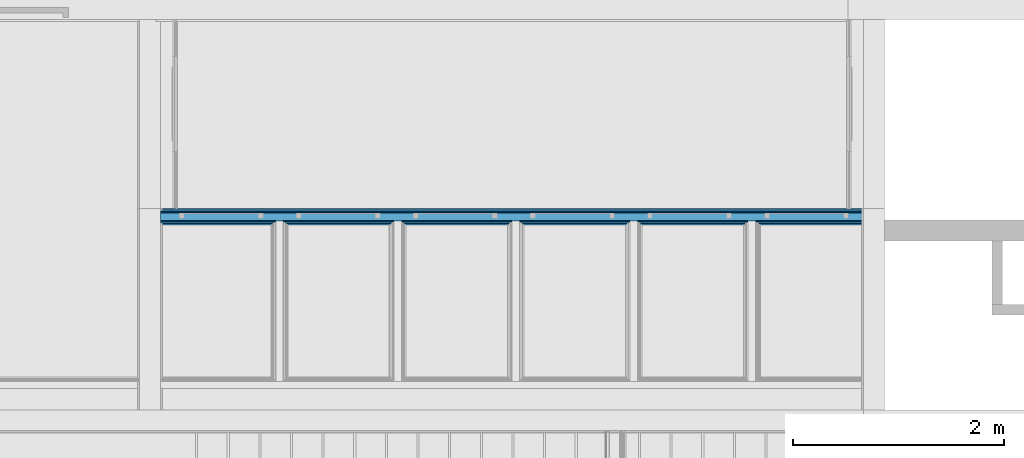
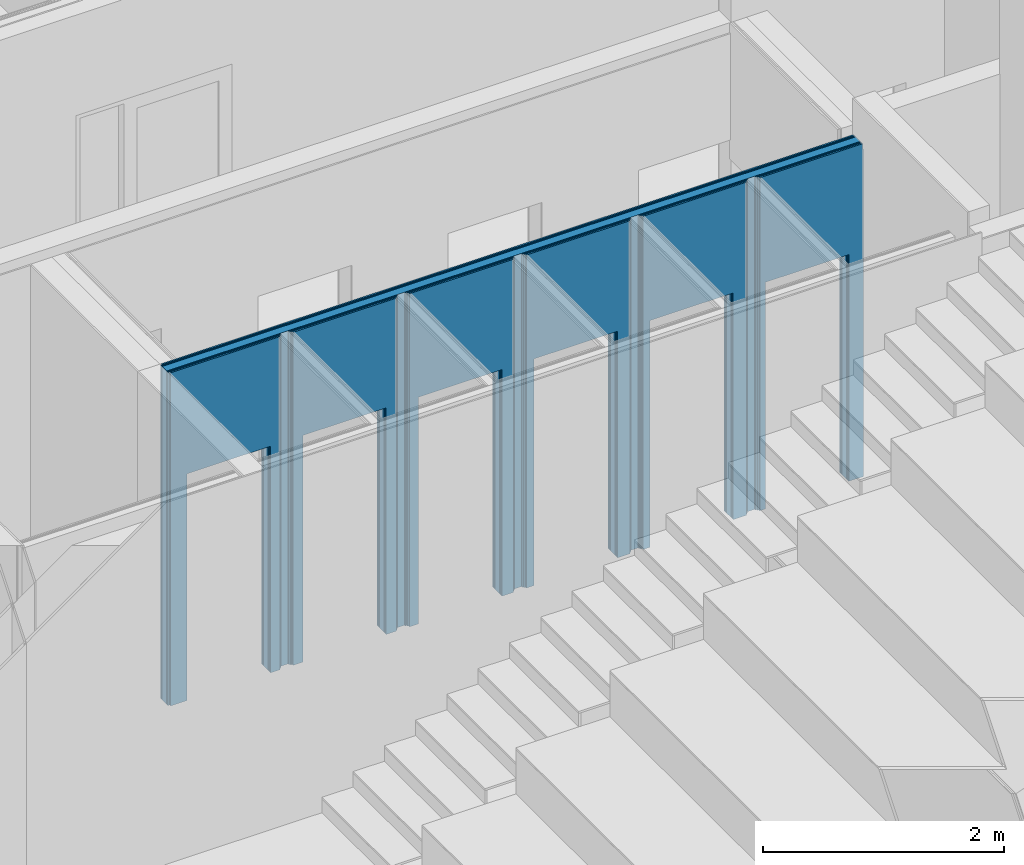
# One storey, part 60 of 139: 7 building element parts, 6 openings, 1 element without a shape of its own.
"""IFC2X3 building model written with IfcOpenShell, lengths in millimetres."""

from ifc_helpers import new_model, entity, si_unit, converted_unit, derived_unit, money_unit, direction, frame, origin_with_axes, place, context, subcontext, project, spatial, faceted_brep, material, type_object, element, aggregate, save


model = new_model("IFC2X3")

# Units and contexts
model_context = context("Model", 3, precision=0.01, world=origin_with_axes(), true_north=direction((0.0, 1.0)))
body_context = subcontext(model_context, "Body", "Model", "MODEL_VIEW")
ifc_project = project(units=[si_unit("LENGTHUNIT", "METRE", prefix="MILLI"), si_unit("AREAUNIT", "SQUARE_METRE"), si_unit("VOLUMEUNIT", "CUBIC_METRE"), converted_unit("PLANEANGLEUNIT", "DEGREE", entity("IfcPlaneAngleMeasure", 0.0174532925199), si_unit("PLANEANGLEUNIT", "RADIAN"), dimensions=[0, 0, 0, 0, 0, 0, 0]), money_unit("EUR"), converted_unit("TIMEUNIT", "Year", entity("IfcTimeMeasure", 31556926.0), si_unit("TIMEUNIT", "SECOND"), dimensions=[0, 0, 1, 0, 0, 0, 0]), si_unit("MASSUNIT", "GRAM", prefix="KILO"), si_unit("THERMODYNAMICTEMPERATUREUNIT", "DEGREE_CELSIUS"), si_unit("LUMINOUSINTENSITYUNIT", "LUMEN"), si_unit("ENERGYUNIT", "JOULE", prefix="MEGA"), derived_unit("THERMALCONDUCTANCEUNIT", [(si_unit("POWERUNIT", "WATT"), 1), (si_unit("LENGTHUNIT", "METRE"), -1), (si_unit("THERMODYNAMICTEMPERATUREUNIT", "KELVIN"), -1)]), derived_unit("SPECIFICHEATCAPACITYUNIT", [(si_unit("ENERGYUNIT", "JOULE"), 1), (si_unit("MASSUNIT", "GRAM", prefix="KILO"), -1), (si_unit("THERMODYNAMICTEMPERATUREUNIT", "KELVIN"), -1)]), derived_unit("MASSDENSITYUNIT", [(si_unit("MASSUNIT", "GRAM", prefix="KILO"), 1), (si_unit("VOLUMEUNIT", "CUBIC_METRE"), -1)])], contexts=[model_context])

# Site, building, storey
site_placement = place(None, origin_with_axes())
site = spatial("IfcSite", under=ifc_project, at=site_placement, Name="Kolde pst 67a", CompositionType="ELEMENT")
building_placement = place(site_placement, origin_with_axes())
building = spatial("IfcBuilding", under=site, at=building_placement, Name="Riigigümnaasium", CompositionType="ELEMENT")
storey_placement = place(building_placement, frame((0.0, 0.0, 4600.0), z_axis=(0.0, 0.0, 1.0), x_axis=(1.0, 0.0, 0.0)))
storey = spatial("IfcBuildingStorey", under=building, at=storey_placement, Name="2. korrus", CompositionType="ELEMENT", Elevation=4600.0)

# Wall, openings, building element parts
wall_type = type_object("IfcWallType", Name="SS-MK-7,5/1_plaaditud 155", PredefinedType="NOTDEFINED")
wall_placement = place(storey_placement, frame((39109.8305113, 47623.4999608, 0.0), z_axis=(0.0, 0.0, 1.0), x_axis=(1.0, 0.0, 0.0)))
wall = element("IfcWall", 1, at=wall_placement, inside=storey, type_object=wall_type, Name="Sisesein")
opening_1_placement = place(wall_placement, frame((6125.15494935, 0.0, 0.0), z_axis=(0.0, 0.0, 1.0), x_axis=(1.0, 0.0, 0.0)))
element("IfcOpeningElement", 2, at=opening_1_placement, cuts=wall, Name="Siseuks", context=body_context, shape_type="Brep", body=[
    faceted_brep([(400.0, -155.0, 2300.0), (400.0, -155.0, 0.0), (400.0, 310.0, 0.0), (400.0, 310.0, 2300.0), (-400.0, -155.0, 2300.0), (-400.0, -155.0, 0.0), (-400.0, 310.0, 0.0), (-400.0, 310.0, 2300.0)], [[[0, 1, 2, 3]], [[0, 4, 5, 1]], [[1, 5, 6, 2]], [[3, 2, 6, 7]], [[4, 0, 3, 7]], [[5, 4, 7, 6]]]),
])
opening_2_placement = place(wall_placement, frame((5015.15494935, 0.0, 0.0), z_axis=(0.0, 0.0, 1.0), x_axis=(1.0, 0.0, 0.0)))
element("IfcOpeningElement", 3, at=opening_2_placement, cuts=wall, Name="Siseuks", context=body_context, shape_type="Brep", body=[
    faceted_brep([(400.0, -155.0, 2300.0), (400.0, -155.0, 0.0), (400.0, 310.0, 0.0), (400.0, 310.0, 2300.0), (-400.0, -155.0, 2300.0), (-400.0, -155.0, 0.0), (-400.0, 310.0, 0.0), (-400.0, 310.0, 2300.0)], [[[0, 1, 2, 3]], [[0, 4, 5, 1]], [[1, 5, 6, 2]], [[3, 2, 6, 7]], [[4, 0, 3, 7]], [[5, 4, 7, 6]]]),
])
opening_3_placement = place(wall_placement, frame((3905.15494935, 0.0, 0.0), z_axis=(0.0, 0.0, 1.0), x_axis=(1.0, 0.0, 0.0)))
element("IfcOpeningElement", 4, at=opening_3_placement, cuts=wall, Name="Siseuks", context=body_context, shape_type="Brep", body=[
    faceted_brep([(400.0, -155.0, 2300.0), (400.0, -155.0, 0.0), (400.0, 310.0, 0.0), (400.0, 310.0, 2300.0), (-400.0, -155.0, 2300.0), (-400.0, -155.0, 0.0), (-400.0, 310.0, 0.0), (-400.0, 310.0, 2300.0)], [[[0, 1, 2, 3]], [[0, 4, 5, 1]], [[1, 5, 6, 2]], [[3, 2, 6, 7]], [[4, 0, 3, 7]], [[5, 4, 7, 6]]]),
])
opening_4_placement = place(wall_placement, frame((2795.15494935, 0.0, 0.0), z_axis=(0.0, 0.0, 1.0), x_axis=(1.0, 0.0, 0.0)))
element("IfcOpeningElement", 5, at=opening_4_placement, cuts=wall, Name="Siseuks", context=body_context, shape_type="Brep", body=[
    faceted_brep([(-400.0, 310.0, 2300.0), (-400.0, 310.0, 0.0), (-400.0, -155.0, 0.0), (-400.0, -155.0, 2300.0), (400.0, 310.0, 2300.0), (400.0, 310.0, 0.0), (400.0, -155.0, 0.0), (400.0, -155.0, 2300.0)], [[[0, 1, 2, 3]], [[0, 4, 5, 1]], [[1, 5, 6, 2]], [[3, 2, 6, 7]], [[4, 0, 3, 7]], [[5, 4, 7, 6]]]),
])
opening_5_placement = place(wall_placement, frame((1685.15494935, 0.0, 0.0), z_axis=(0.0, 0.0, 1.0), x_axis=(1.0, 0.0, 0.0)))
element("IfcOpeningElement", 6, at=opening_5_placement, cuts=wall, Name="Siseuks", context=body_context, shape_type="Brep", body=[
    faceted_brep([(-400.0, 310.0, 2300.0), (-400.0, 310.0, 0.0), (-400.0, -155.0, 0.0), (-400.0, -155.0, 2300.0), (400.0, 310.0, 2300.0), (400.0, 310.0, 0.0), (400.0, -155.0, 0.0), (400.0, -155.0, 2300.0)], [[[0, 1, 2, 3]], [[0, 4, 5, 1]], [[1, 5, 6, 2]], [[3, 2, 6, 7]], [[4, 0, 3, 7]], [[5, 4, 7, 6]]]),
])
opening_6_placement = place(wall_placement, frame((575.0, 0.0, 0.0), z_axis=(0.0, 0.0, 1.0), x_axis=(1.0, 0.0, 0.0)))
element("IfcOpeningElement", 7, at=opening_6_placement, cuts=wall, Name="Siseuks", context=body_context, shape_type="Brep", body=[
    faceted_brep([(-400.0, 310.0, 2300.0), (-400.0, 310.0, 0.0), (-400.0, -155.0, 0.0), (-400.0, -155.0, 2300.0), (400.0, 310.0, 2300.0), (400.0, 310.0, 0.0), (400.0, -155.0, 0.0), (400.0, -155.0, 2300.0)], [[[0, 1, 2, 3]], [[0, 4, 5, 1]], [[1, 5, 6, 2]], [[3, 2, 6, 7]], [[4, 0, 3, 7]], [[5, 4, 7, 6]]]),
])
ifc_material_1 = material(Name="_VIIMISTLUSKIHT - viimistlus vastavalt SA osale")
building_element_part_1_placement = place(wall_placement, origin_with_axes())
building_element_part_1 = element("IfcBuildingElementPart", 8, at=building_element_part_1_placement, material=ifc_material_1, Name="_VIIMISTLUSKIHT - viimistlus vastavalt SA osale", context=body_context, shape_type="Brep", body=[
    faceted_brep([(175.0, 155.0, 2300.0), (175.0, 155.0, 0.0), (15.0, 155.0, 0.0), (15.0, 155.0, 3380.0), (6660.59108502, 155.0, 3380.0), (6660.59108502, 155.0, 3320.0), (6665.15494935, 155.0, 3320.0), (6665.15494935, 155.0, 0.0), (6525.15494935, 155.0, 0.0), (6525.15494935, 155.0, 2300.0), (5725.15494935, 155.0, 2300.0), (5725.15494935, 155.0, 0.0), (5415.15494935, 155.0, 0.0), (5415.15494935, 155.0, 2300.0), (4615.15494935, 155.0, 2300.0), (4615.15494935, 155.0, 0.0), (4305.15494935, 155.0, 0.0), (4305.15494935, 155.0, 2300.0), (3505.15494935, 155.0, 2300.0), (3505.15494935, 155.0, 0.0), (3195.15494935, 155.0, 0.0), (3195.15494935, 155.0, 2300.0), (2395.15494935, 155.0, 2300.0), (2395.15494935, 155.0, 0.0), (2085.15494935, 155.0, 0.0), (2085.15494935, 155.0, 2300.0), (1285.15494935, 155.0, 2300.0), (1285.15494935, 155.0, 0.0), (975.0, 155.0, 0.0), (975.0, 155.0, 2300.0), (175.0, 140.0, 2300.0), (175.0, 140.0, 0.0), (15.0, 140.0, 0.0), (15.0, 140.0, 3380.0), (6660.59108502, 140.0, 3380.0), (6660.59108502, 140.0, 3320.0), (6665.15494935, 140.0, 3320.0), (6665.15494935, 140.0, 0.0), (6525.15494935, 140.0, 0.0), (6525.15494935, 140.0, 2300.0), (5725.15494935, 140.0, 2300.0), (5725.15494935, 140.0, 0.0), (5415.15494935, 140.0, 0.0), (5415.15494935, 140.0, 2300.0), (4615.15494935, 140.0, 2300.0), (4615.15494935, 140.0, 0.0), (4305.15494935, 140.0, 0.0), (4305.15494935, 140.0, 2300.0), (3505.15494935, 140.0, 2300.0), (3505.15494935, 140.0, 0.0), (3195.15494935, 140.0, 0.0), (3195.15494935, 140.0, 2300.0), (2395.15494935, 140.0, 2300.0), (2395.15494935, 140.0, 0.0), (2085.15494935, 140.0, 0.0), (2085.15494935, 140.0, 2300.0), (1285.15494935, 140.0, 2300.0), (1285.15494935, 140.0, 0.0), (975.0, 140.0, 0.0), (975.0, 140.0, 2300.0)], [[[0, 1, 2, 3, 4, 5, 6, 7, 8, 9, 10, 11, 12, 13, 14, 15, 16, 17, 18, 19, 20, 21, 22, 23, 24, 25, 26, 27, 28, 29]], [[1, 0, 30, 31]], [[1, 31, 32, 2]], [[2, 32, 33, 3]], [[3, 33, 34, 4]], [[34, 35, 5, 4]], [[5, 35, 36, 6]], [[37, 7, 6, 36]], [[8, 7, 37, 38]], [[8, 38, 39, 9]], [[9, 39, 40, 10]], [[10, 40, 41, 11]], [[42, 12, 11, 41]], [[13, 12, 42, 43]], [[14, 13, 43, 44]], [[15, 14, 44, 45]], [[45, 46, 16, 15]], [[47, 17, 16, 46]], [[48, 18, 17, 47]], [[49, 19, 18, 48]], [[19, 49, 50, 20]], [[50, 51, 21, 20]], [[51, 52, 22, 21]], [[52, 53, 23, 22]], [[24, 23, 53, 54]], [[24, 54, 55, 25]], [[25, 55, 56, 26]], [[26, 56, 57, 27]], [[58, 28, 27, 57]], [[29, 28, 58, 59]], [[0, 29, 59, 30]], [[59, 58, 57, 56, 55, 54, 53, 52, 51, 50, 49, 48, 47, 46, 45, 44, 43, 42, 41, 40, 39, 38, 37, 36, 35, 34, 33, 32, 31, 30]]]),
])
ifc_material_2 = material(Name="_PLAATMATERJAL - kipsplaat veekindel")
building_element_part_2_placement = place(wall_placement, origin_with_axes())
building_element_part_2 = element("IfcBuildingElementPart", 9, at=building_element_part_2_placement, material=ifc_material_2, Name="_PLAATMATERJAL - kipsplaat veekindel", context=body_context, shape_type="Brep", body=[
    faceted_brep([(175.0, 140.0, 2300.0), (175.0, 140.0, 0.0), (0.0, 140.0, 0.0), (0.0, 140.0, 3380.0), (6660.59108502, 140.0, 3380.0), (6660.59108502, 140.0, 3320.0), (6665.15494935, 140.0, 3320.0), (6665.15494935, 140.0, 0.0), (6525.15494935, 140.0, 0.0), (6525.15494935, 140.0, 2300.0), (5725.15494935, 140.0, 2300.0), (5725.15494935, 140.0, 0.0), (5415.15494935, 140.0, 0.0), (5415.15494935, 140.0, 2300.0), (4615.15494935, 140.0, 2300.0), (4615.15494935, 140.0, 0.0), (4305.15494935, 140.0, 0.0), (4305.15494935, 140.0, 2300.0), (3505.15494935, 140.0, 2300.0), (3505.15494935, 140.0, 0.0), (3195.15494935, 140.0, 0.0), (3195.15494935, 140.0, 2300.0), (2395.15494935, 140.0, 2300.0), (2395.15494935, 140.0, 0.0), (2085.15494935, 140.0, 0.0), (2085.15494935, 140.0, 2300.0), (1285.15494935, 140.0, 2300.0), (1285.15494935, 140.0, 0.0), (975.0, 140.0, 0.0), (975.0, 140.0, 2300.0), (175.0, 127.5, 2300.0), (175.0, 127.5, 0.0), (0.0, 127.5, 0.0), (0.0, 127.5, 3380.0), (6660.59108502, 127.5, 3380.0), (6660.59108502, 127.5, 3320.0), (6665.15494935, 127.5, 3320.0), (6665.15494935, 127.5, 0.0), (6525.15494935, 127.5, 0.0), (6525.15494935, 127.5, 2300.0), (5725.15494935, 127.5, 2300.0), (5725.15494935, 127.5, 0.0), (5415.15494935, 127.5, 0.0), (5415.15494935, 127.5, 2300.0), (4615.15494935, 127.5, 2300.0), (4615.15494935, 127.5, 0.0), (4305.15494935, 127.5, 0.0), (4305.15494935, 127.5, 2300.0), (3505.15494935, 127.5, 2300.0), (3505.15494935, 127.5, 0.0), (3195.15494935, 127.5, 0.0), (3195.15494935, 127.5, 2300.0), (2395.15494935, 127.5, 2300.0), (2395.15494935, 127.5, 0.0), (2085.15494935, 127.5, 0.0), (2085.15494935, 127.5, 2300.0), (1285.15494935, 127.5, 2300.0), (1285.15494935, 127.5, 0.0), (975.0, 127.5, 0.0), (975.0, 127.5, 2300.0)], [[[0, 1, 2, 3, 4, 5, 6, 7, 8, 9, 10, 11, 12, 13, 14, 15, 16, 17, 18, 19, 20, 21, 22, 23, 24, 25, 26, 27, 28, 29]], [[1, 0, 30, 31]], [[1, 31, 32, 2]], [[2, 32, 33, 3]], [[3, 33, 34, 4]], [[34, 35, 5, 4]], [[5, 35, 36, 6]], [[37, 7, 6, 36]], [[8, 7, 37, 38]], [[8, 38, 39, 9]], [[9, 39, 40, 10]], [[10, 40, 41, 11]], [[42, 12, 11, 41]], [[13, 12, 42, 43]], [[14, 13, 43, 44]], [[15, 14, 44, 45]], [[45, 46, 16, 15]], [[47, 17, 16, 46]], [[48, 18, 17, 47]], [[49, 19, 18, 48]], [[19, 49, 50, 20]], [[50, 51, 21, 20]], [[51, 52, 22, 21]], [[52, 53, 23, 22]], [[24, 23, 53, 54]], [[24, 54, 55, 25]], [[25, 55, 56, 26]], [[26, 56, 57, 27]], [[58, 28, 27, 57]], [[29, 28, 58, 59]], [[0, 29, 59, 30]], [[59, 58, 57, 56, 55, 54, 53, 52, 51, 50, 49, 48, 47, 46, 45, 44, 43, 42, 41, 40, 39, 38, 37, 36, 35, 34, 33, 32, 31, 30]]]),
])
building_element_part_3_placement = place(wall_placement, origin_with_axes())
building_element_part_3 = element("IfcBuildingElementPart", 10, at=building_element_part_3_placement, material=ifc_material_2, Name="_PLAATMATERJAL - kipsplaat veekindel", context=body_context, shape_type="Brep", body=[
    faceted_brep([(175.0, 127.5, 2300.0), (175.0, 127.5, 0.0), (0.0, 127.5, 0.0), (0.0, 127.5, 3380.0), (6660.59108502, 127.5, 3380.0), (6660.59108502, 127.5, 3320.0), (6665.15494935, 127.5, 3320.0), (6665.15494935, 127.5, 0.0), (6525.15494935, 127.5, 0.0), (6525.15494935, 127.5, 2300.0), (5725.15494935, 127.5, 2300.0), (5725.15494935, 127.5, 0.0), (5415.15494935, 127.5, 0.0), (5415.15494935, 127.5, 2300.0), (4615.15494935, 127.5, 2300.0), (4615.15494935, 127.5, 0.0), (4305.15494935, 127.5, 0.0), (4305.15494935, 127.5, 2300.0), (3505.15494935, 127.5, 2300.0), (3505.15494935, 127.5, 0.0), (3195.15494935, 127.5, 0.0), (3195.15494935, 127.5, 2300.0), (2395.15494935, 127.5, 2300.0), (2395.15494935, 127.5, 0.0), (2085.15494935, 127.5, 0.0), (2085.15494935, 127.5, 2300.0), (1285.15494935, 127.5, 2300.0), (1285.15494935, 127.5, 0.0), (975.0, 127.5, 0.0), (975.0, 127.5, 2300.0), (175.0, 115.0, 2300.0), (175.0, 115.0, 0.0), (0.0, 115.0, 0.0), (0.0, 115.0, 3380.0), (6660.59108502, 115.0, 3380.0), (6660.59108502, 115.0, 3320.0), (6665.15494935, 115.0, 3320.0), (6665.15494935, 115.0, 0.0), (6525.15494935, 115.0, 0.0), (6525.15494935, 115.0, 2300.0), (5725.15494935, 115.0, 2300.0), (5725.15494935, 115.0, 0.0), (5415.15494935, 115.0, 0.0), (5415.15494935, 115.0, 2300.0), (4615.15494935, 115.0, 2300.0), (4615.15494935, 115.0, 0.0), (4305.15494935, 115.0, 0.0), (4305.15494935, 115.0, 2300.0), (3505.15494935, 115.0, 2300.0), (3505.15494935, 115.0, 0.0), (3195.15494935, 115.0, 0.0), (3195.15494935, 115.0, 2300.0), (2395.15494935, 115.0, 2300.0), (2395.15494935, 115.0, 0.0), (2085.15494935, 115.0, 0.0), (2085.15494935, 115.0, 2300.0), (1285.15494935, 115.0, 2300.0), (1285.15494935, 115.0, 0.0), (975.0, 115.0, 0.0), (975.0, 115.0, 2300.0)], [[[0, 1, 2, 3, 4, 5, 6, 7, 8, 9, 10, 11, 12, 13, 14, 15, 16, 17, 18, 19, 20, 21, 22, 23, 24, 25, 26, 27, 28, 29]], [[1, 0, 30, 31]], [[1, 31, 32, 2]], [[2, 32, 33, 3]], [[3, 33, 34, 4]], [[34, 35, 5, 4]], [[5, 35, 36, 6]], [[37, 7, 6, 36]], [[8, 7, 37, 38]], [[8, 38, 39, 9]], [[9, 39, 40, 10]], [[10, 40, 41, 11]], [[42, 12, 11, 41]], [[13, 12, 42, 43]], [[14, 13, 43, 44]], [[15, 14, 44, 45]], [[45, 46, 16, 15]], [[47, 17, 16, 46]], [[48, 18, 17, 47]], [[49, 19, 18, 48]], [[19, 49, 50, 20]], [[50, 51, 21, 20]], [[51, 52, 22, 21]], [[52, 53, 23, 22]], [[24, 23, 53, 54]], [[24, 54, 55, 25]], [[25, 55, 56, 26]], [[26, 56, 57, 27]], [[58, 28, 27, 57]], [[29, 28, 58, 59]], [[0, 29, 59, 30]], [[59, 58, 57, 56, 55, 54, 53, 52, 51, 50, 49, 48, 47, 46, 45, 44, 43, 42, 41, 40, 39, 38, 37, 36, 35, 34, 33, 32, 31, 30]]]),
])
ifc_material_3 = material(Name="_KARKASS - metallkarkass CW 75/50, mineraalvill karkassi vahel")
building_element_part_4_placement = place(wall_placement, origin_with_axes())
building_element_part_4 = element("IfcBuildingElementPart", 11, at=building_element_part_4_placement, material=ifc_material_3, Name="_KARKASS - metallkarkass CW 75/50, mineraalvill karkassi vahel", context=body_context, shape_type="Brep", body=[
    faceted_brep([(175.0, 115.0, 2300.0), (175.0, 115.0, 0.0), (0.0, 115.0, 0.0), (0.0, 115.0, 3380.0), (6660.59108502, 115.0, 3380.0), (6660.59108502, 115.0, 3320.0), (6665.15494935, 115.0, 3320.0), (6665.15494935, 115.0, 0.0), (6525.15494935, 115.0, 0.0), (6525.15494935, 115.0, 2300.0), (5725.15494935, 115.0, 2300.0), (5725.15494935, 115.0, 0.0), (5415.15494935, 115.0, 0.0), (5415.15494935, 115.0, 2300.0), (4615.15494935, 115.0, 2300.0), (4615.15494935, 115.0, 0.0), (4305.15494935, 115.0, 0.0), (4305.15494935, 115.0, 2300.0), (3505.15494935, 115.0, 2300.0), (3505.15494935, 115.0, 0.0), (3195.15494935, 115.0, 0.0), (3195.15494935, 115.0, 2300.0), (2395.15494935, 115.0, 2300.0), (2395.15494935, 115.0, 0.0), (2085.15494935, 115.0, 0.0), (2085.15494935, 115.0, 2300.0), (1285.15494935, 115.0, 2300.0), (1285.15494935, 115.0, 0.0), (975.0, 115.0, 0.0), (975.0, 115.0, 2300.0), (175.0, 40.0, 2300.0), (175.0, 40.0, 0.0), (0.0, 40.0, 0.0), (0.0, 40.0, 3380.0), (6660.59108502, 40.0, 3380.0), (6660.59108502, 40.0, 3320.0), (6665.15494935, 40.0, 3320.0), (6665.15494935, 40.0, 0.0), (6525.15494935, 40.0, 0.0), (6525.15494935, 40.0, 2300.0), (5725.15494935, 40.0, 2300.0), (5725.15494935, 40.0, 0.0), (5415.15494935, 40.0, 0.0), (5415.15494935, 40.0, 2300.0), (4615.15494935, 40.0, 2300.0), (4615.15494935, 40.0, 0.0), (4305.15494935, 40.0, 0.0), (4305.15494935, 40.0, 2300.0), (3505.15494935, 40.0, 2300.0), (3505.15494935, 40.0, 0.0), (3195.15494935, 40.0, 0.0), (3195.15494935, 40.0, 2300.0), (2395.15494935, 40.0, 2300.0), (2395.15494935, 40.0, 0.0), (2085.15494935, 40.0, 0.0), (2085.15494935, 40.0, 2300.0), (1285.15494935, 40.0, 2300.0), (1285.15494935, 40.0, 0.0), (975.0, 40.0, 0.0), (975.0, 40.0, 2300.0)], [[[0, 1, 2, 3, 4, 5, 6, 7, 8, 9, 10, 11, 12, 13, 14, 15, 16, 17, 18, 19, 20, 21, 22, 23, 24, 25, 26, 27, 28, 29]], [[1, 0, 30, 31]], [[1, 31, 32, 2]], [[2, 32, 33, 3]], [[3, 33, 34, 4]], [[34, 35, 5, 4]], [[5, 35, 36, 6]], [[37, 7, 6, 36]], [[8, 7, 37, 38]], [[8, 38, 39, 9]], [[9, 39, 40, 10]], [[10, 40, 41, 11]], [[42, 12, 11, 41]], [[13, 12, 42, 43]], [[14, 13, 43, 44]], [[15, 14, 44, 45]], [[45, 46, 16, 15]], [[47, 17, 16, 46]], [[48, 18, 17, 47]], [[49, 19, 18, 48]], [[19, 49, 50, 20]], [[50, 51, 21, 20]], [[51, 52, 22, 21]], [[52, 53, 23, 22]], [[24, 23, 53, 54]], [[24, 54, 55, 25]], [[25, 55, 56, 26]], [[26, 56, 57, 27]], [[58, 28, 27, 57]], [[29, 28, 58, 59]], [[0, 29, 59, 30]], [[59, 58, 57, 56, 55, 54, 53, 52, 51, 50, 49, 48, 47, 46, 45, 44, 43, 42, 41, 40, 39, 38, 37, 36, 35, 34, 33, 32, 31, 30]]]),
])
building_element_part_5_placement = place(wall_placement, origin_with_axes())
building_element_part_5 = element("IfcBuildingElementPart", 12, at=building_element_part_5_placement, material=ifc_material_2, Name="_PLAATMATERJAL - kipsplaat veekindel", context=body_context, shape_type="Brep", body=[
    faceted_brep([(175.0, 40.0, 2300.0), (175.0, 40.0, 0.0), (0.0, 40.0, 0.0), (0.0, 40.0, 3380.0), (1090.15494935, 40.0, 3380.0), (1090.15494935, 40.0, 0.0), (975.0, 40.0, 0.0), (975.0, 40.0, 2300.0), (175.0, 27.5, 2300.0), (175.0, 27.5, 0.0), (0.0, 27.5, 0.0), (0.0, 27.5, 3380.0), (1090.15494935, 27.5, 3380.0), (1090.15494935, 27.5, 0.0), (975.0, 27.5, 0.0), (975.0, 27.5, 2300.0)], [[[0, 1, 2, 3, 4, 5, 6, 7]], [[1, 0, 8, 9]], [[1, 9, 10, 2]], [[3, 2, 10, 11]], [[4, 3, 11, 12]], [[12, 13, 5, 4]], [[14, 6, 5, 13]], [[7, 6, 14, 15]], [[0, 7, 15, 8]], [[15, 14, 13, 12, 11, 10, 9, 8]]]),
    faceted_brep([(1285.15494935, 40.0, 2300.0), (1285.15494935, 40.0, 0.0), (1165.15494935, 40.0, 0.0), (1165.15494935, 40.0, 3380.0), (2210.15494935, 40.0, 3380.0), (2210.15494935, 40.0, 0.0), (2085.15494935, 40.0, 0.0), (2085.15494935, 40.0, 2300.0), (1285.15494935, 27.5, 2300.0), (1285.15494935, 27.5, 0.0), (1165.15494935, 27.5, 0.0), (1165.15494935, 27.5, 3380.0), (2210.15494935, 27.5, 3380.0), (2210.15494935, 27.5, 0.0), (2085.15494935, 27.5, 0.0), (2085.15494935, 27.5, 2300.0)], [[[0, 1, 2, 3, 4, 5, 6, 7]], [[1, 0, 8, 9]], [[1, 9, 10, 2]], [[3, 2, 10, 11]], [[4, 3, 11, 12]], [[12, 13, 5, 4]], [[14, 6, 5, 13]], [[7, 6, 14, 15]], [[0, 7, 15, 8]], [[15, 14, 13, 12, 11, 10, 9, 8]]]),
    faceted_brep([(2395.15494935, 40.0, 2300.0), (2395.15494935, 40.0, 0.0), (2285.15494935, 40.0, 0.0), (2285.15494935, 40.0, 3380.0), (3330.15494935, 40.0, 3380.0), (3330.15494935, 40.0, 0.0), (3195.15494935, 40.0, 0.0), (3195.15494935, 40.0, 2300.0), (2395.15494935, 27.5, 2300.0), (2395.15494935, 27.5, 0.0), (2285.15494935, 27.5, 0.0), (2285.15494935, 27.5, 3380.0), (3330.15494935, 27.5, 3380.0), (3330.15494935, 27.5, 0.0), (3195.15494935, 27.5, 0.0), (3195.15494935, 27.5, 2300.0)], [[[0, 1, 2, 3, 4, 5, 6, 7]], [[1, 0, 8, 9]], [[1, 9, 10, 2]], [[3, 2, 10, 11]], [[4, 3, 11, 12]], [[12, 13, 5, 4]], [[14, 6, 5, 13]], [[7, 6, 14, 15]], [[0, 7, 15, 8]], [[15, 14, 13, 12, 11, 10, 9, 8]]]),
    faceted_brep([(3505.15494935, 40.0, 2300.0), (3505.15494935, 40.0, 0.0), (3405.15494935, 40.0, 0.0), (3405.15494935, 40.0, 3380.0), (4450.15494935, 40.0, 3380.0), (4450.15494935, 40.0, 0.0), (4305.15494935, 40.0, 0.0), (4305.15494935, 40.0, 2300.0), (3505.15494935, 27.5, 2300.0), (3505.15494935, 27.5, 0.0), (3405.15494935, 27.5, 0.0), (3405.15494935, 27.5, 3380.0), (4450.15494935, 27.5, 3380.0), (4450.15494935, 27.5, 0.0), (4305.15494935, 27.5, 0.0), (4305.15494935, 27.5, 2300.0)], [[[0, 1, 2, 3, 4, 5, 6, 7]], [[1, 0, 8, 9]], [[1, 9, 10, 2]], [[3, 2, 10, 11]], [[4, 3, 11, 12]], [[12, 13, 5, 4]], [[14, 6, 5, 13]], [[7, 6, 14, 15]], [[0, 7, 15, 8]], [[15, 14, 13, 12, 11, 10, 9, 8]]]),
    faceted_brep([(4615.15494935, 40.0, 2300.0), (4615.15494935, 40.0, 0.0), (4525.15494935, 40.0, 0.0), (4525.15494935, 40.0, 3380.0), (5570.15494935, 40.0, 3380.0), (5570.15494935, 40.0, 0.0), (5415.15494935, 40.0, 0.0), (5415.15494935, 40.0, 2300.0), (4615.15494935, 27.5, 2300.0), (4615.15494935, 27.5, 0.0), (4525.15494935, 27.5, 0.0), (4525.15494935, 27.5, 3380.0), (5570.15494935, 27.5, 3380.0), (5570.15494935, 27.5, 0.0), (5415.15494935, 27.5, 0.0), (5415.15494935, 27.5, 2300.0)], [[[0, 1, 2, 3, 4, 5, 6, 7]], [[1, 0, 8, 9]], [[1, 9, 10, 2]], [[3, 2, 10, 11]], [[4, 3, 11, 12]], [[12, 13, 5, 4]], [[14, 6, 5, 13]], [[7, 6, 14, 15]], [[0, 7, 15, 8]], [[15, 14, 13, 12, 11, 10, 9, 8]]]),
    faceted_brep([(5725.15494935, 40.0, 2300.0), (5725.15494935, 40.0, 0.0), (5645.15494935, 40.0, 0.0), (5645.15494935, 40.0, 3380.0), (6660.59108502, 40.0, 3380.0), (6660.59108502, 40.0, 3320.0), (6665.15494935, 40.0, 3320.0), (6665.15494935, 40.0, 0.0), (6525.15494935, 40.0, 0.0), (6525.15494935, 40.0, 2300.0), (5725.15494935, 27.5, 2300.0), (5725.15494935, 27.5, 0.0), (5645.15494935, 27.5, 0.0), (5645.15494935, 27.5, 3380.0), (6660.59108502, 27.5, 3380.0), (6660.59108502, 27.5, 3320.0), (6665.15494935, 27.5, 3320.0), (6665.15494935, 27.5, 0.0), (6525.15494935, 27.5, 0.0), (6525.15494935, 27.5, 2300.0)], [[[0, 1, 2, 3, 4, 5, 6, 7, 8, 9]], [[1, 0, 10, 11]], [[1, 11, 12, 2]], [[3, 2, 12, 13]], [[4, 3, 13, 14]], [[4, 14, 15, 5]], [[6, 5, 15, 16]], [[16, 17, 7, 6]], [[18, 8, 7, 17]], [[9, 8, 18, 19]], [[0, 9, 19, 10]], [[19, 18, 17, 16, 15, 14, 13, 12, 11, 10]]]),
])
building_element_part_6_placement = place(wall_placement, origin_with_axes())
building_element_part_6 = element("IfcBuildingElementPart", 13, at=building_element_part_6_placement, material=ifc_material_2, Name="_PLAATMATERJAL - kipsplaat veekindel", context=body_context, shape_type="Brep", body=[
    faceted_brep([(175.0, 27.5, 2300.0), (175.0, 27.5, 0.0), (0.0, 27.5, 0.0), (0.0, 27.5, 3380.0), (1077.65494935, 27.5, 3380.0), (1077.65494935, 27.5, 0.0), (975.0, 27.5, 0.0), (975.0, 27.5, 2300.0), (175.0, 15.0, 2300.0), (175.0, 15.0, 0.0), (0.0, 15.0, 0.0), (0.0, 15.0, 3380.0), (1077.65494935, 15.0, 3380.0), (1077.65494935, 15.0, 0.0), (975.0, 15.0, 0.0), (975.0, 15.0, 2300.0)], [[[0, 1, 2, 3, 4, 5, 6, 7]], [[1, 0, 8, 9]], [[1, 9, 10, 2]], [[3, 2, 10, 11]], [[4, 3, 11, 12]], [[12, 13, 5, 4]], [[14, 6, 5, 13]], [[7, 6, 14, 15]], [[0, 7, 15, 8]], [[15, 14, 13, 12, 11, 10, 9, 8]]]),
    faceted_brep([(1285.15494935, 27.5, 2300.0), (1285.15494935, 27.5, 0.0), (1177.65494935, 27.5, 0.0), (1177.65494935, 27.5, 3380.0), (2197.65494935, 27.5, 3380.0), (2197.65494935, 27.5, 0.0), (2085.15494935, 27.5, 0.0), (2085.15494935, 27.5, 2300.0), (1285.15494935, 15.0, 2300.0), (1285.15494935, 15.0, 0.0), (1177.65494935, 15.0, 0.0), (1177.65494935, 15.0, 3380.0), (2197.65494935, 15.0, 3380.0), (2197.65494935, 15.0, 0.0), (2085.15494935, 15.0, 0.0), (2085.15494935, 15.0, 2300.0)], [[[0, 1, 2, 3, 4, 5, 6, 7]], [[1, 0, 8, 9]], [[1, 9, 10, 2]], [[3, 2, 10, 11]], [[4, 3, 11, 12]], [[12, 13, 5, 4]], [[14, 6, 5, 13]], [[7, 6, 14, 15]], [[0, 7, 15, 8]], [[15, 14, 13, 12, 11, 10, 9, 8]]]),
    faceted_brep([(2395.15494935, 27.5, 2300.0), (2395.15494935, 27.5, 0.0), (2297.65494935, 27.5, 0.0), (2297.65494935, 27.5, 3380.0), (3317.65494935, 27.5, 3380.0), (3317.65494935, 27.5, 0.0), (3195.15494935, 27.5, 0.0), (3195.15494935, 27.5, 2300.0), (2395.15494935, 15.0, 2300.0), (2395.15494935, 15.0, 0.0), (2297.65494935, 15.0, 0.0), (2297.65494935, 15.0, 3380.0), (3317.65494935, 15.0, 3380.0), (3317.65494935, 15.0, 0.0), (3195.15494935, 15.0, 0.0), (3195.15494935, 15.0, 2300.0)], [[[0, 1, 2, 3, 4, 5, 6, 7]], [[1, 0, 8, 9]], [[1, 9, 10, 2]], [[3, 2, 10, 11]], [[4, 3, 11, 12]], [[12, 13, 5, 4]], [[14, 6, 5, 13]], [[7, 6, 14, 15]], [[0, 7, 15, 8]], [[15, 14, 13, 12, 11, 10, 9, 8]]]),
    faceted_brep([(3505.15494935, 27.5, 2300.0), (3505.15494935, 27.5, 0.0), (3417.65494935, 27.5, 0.0), (3417.65494935, 27.5, 3380.0), (4437.65494935, 27.5, 3380.0), (4437.65494935, 27.5, 0.0), (4305.15494935, 27.5, 0.0), (4305.15494935, 27.5, 2300.0), (3505.15494935, 15.0, 2300.0), (3505.15494935, 15.0, 0.0), (3417.65494935, 15.0, 0.0), (3417.65494935, 15.0, 3380.0), (4437.65494935, 15.0, 3380.0), (4437.65494935, 15.0, 0.0), (4305.15494935, 15.0, 0.0), (4305.15494935, 15.0, 2300.0)], [[[0, 1, 2, 3, 4, 5, 6, 7]], [[1, 0, 8, 9]], [[1, 9, 10, 2]], [[3, 2, 10, 11]], [[4, 3, 11, 12]], [[12, 13, 5, 4]], [[14, 6, 5, 13]], [[7, 6, 14, 15]], [[0, 7, 15, 8]], [[15, 14, 13, 12, 11, 10, 9, 8]]]),
    faceted_brep([(4615.15494935, 27.5, 2300.0), (4615.15494935, 27.5, 0.0), (4537.65494935, 27.5, 0.0), (4537.65494935, 27.5, 3380.0), (5557.65494935, 27.5, 3380.0), (5557.65494935, 27.5, 0.0), (5415.15494935, 27.5, 0.0), (5415.15494935, 27.5, 2300.0), (4615.15494935, 15.0, 2300.0), (4615.15494935, 15.0, 0.0), (4537.65494935, 15.0, 0.0), (4537.65494935, 15.0, 3380.0), (5557.65494935, 15.0, 3380.0), (5557.65494935, 15.0, 0.0), (5415.15494935, 15.0, 0.0), (5415.15494935, 15.0, 2300.0)], [[[0, 1, 2, 3, 4, 5, 6, 7]], [[1, 0, 8, 9]], [[1, 9, 10, 2]], [[3, 2, 10, 11]], [[4, 3, 11, 12]], [[12, 13, 5, 4]], [[14, 6, 5, 13]], [[7, 6, 14, 15]], [[0, 7, 15, 8]], [[15, 14, 13, 12, 11, 10, 9, 8]]]),
    faceted_brep([(5725.15494935, 27.5, 2300.0), (5725.15494935, 27.5, 0.0), (5657.65494935, 27.5, 0.0), (5657.65494935, 27.5, 3380.0), (6660.59108502, 27.5, 3380.0), (6660.59108502, 27.5, 3320.0), (6665.15494935, 27.5, 3320.0), (6665.15494935, 27.5, 0.0), (6525.15494935, 27.5, 0.0), (6525.15494935, 27.5, 2300.0), (5725.15494935, 15.0, 2300.0), (5725.15494935, 15.0, 0.0), (5657.65494935, 15.0, 0.0), (5657.65494935, 15.0, 3380.0), (6660.59108502, 15.0, 3380.0), (6660.59108502, 15.0, 3320.0), (6665.15494935, 15.0, 3320.0), (6665.15494935, 15.0, 0.0), (6525.15494935, 15.0, 0.0), (6525.15494935, 15.0, 2300.0)], [[[0, 1, 2, 3, 4, 5, 6, 7, 8, 9]], [[1, 0, 10, 11]], [[1, 11, 12, 2]], [[3, 2, 12, 13]], [[4, 3, 13, 14]], [[4, 14, 15, 5]], [[6, 5, 15, 16]], [[16, 17, 7, 6]], [[18, 8, 7, 17]], [[9, 8, 18, 19]], [[0, 9, 19, 10]], [[19, 18, 17, 16, 15, 14, 13, 12, 11, 10]]]),
])
building_element_part_7_placement = place(wall_placement, origin_with_axes())
building_element_part_7 = element("IfcBuildingElementPart", 14, at=building_element_part_7_placement, material=ifc_material_1, Name="_VIIMISTLUSKIHT - viimistlus vastavalt SA osale", context=body_context, shape_type="Brep", body=[
    faceted_brep([(175.0, 15.0, 2300.0), (175.0, 15.0, 0.0), (15.0, 15.0, 0.0), (15.0, 15.0, 3380.0), (1065.15494935, 15.0, 3380.0), (1065.15494935, 15.0, 0.0), (975.0, 15.0, 0.0), (975.0, 15.0, 2300.0), (175.0, 0.0, 2300.0), (175.0, 0.0, 0.0), (15.0, 0.0, 0.0), (15.0, 0.0, 3380.0), (1065.15494935, 0.0, 3380.0), (1065.15494935, 0.0, 0.0), (975.0, 0.0, 0.0), (975.0, 0.0, 2300.0)], [[[0, 1, 2, 3, 4, 5, 6, 7]], [[1, 0, 8, 9]], [[1, 9, 10, 2]], [[3, 2, 10, 11]], [[4, 3, 11, 12]], [[12, 13, 5, 4]], [[14, 6, 5, 13]], [[7, 6, 14, 15]], [[0, 7, 15, 8]], [[15, 14, 13, 12, 11, 10, 9, 8]]]),
    faceted_brep([(1285.15494935, 15.0, 2300.0), (1285.15494935, 15.0, 0.0), (1190.15494935, 15.0, 0.0), (1190.15494935, 15.0, 3380.0), (2185.15494935, 15.0, 3380.0), (2185.15494935, 15.0, 0.0), (2085.15494935, 15.0, 0.0), (2085.15494935, 15.0, 2300.0), (1285.15494935, 0.0, 2300.0), (1285.15494935, 0.0, 0.0), (1190.15494935, 0.0, 0.0), (1190.15494935, 0.0, 3380.0), (2185.15494935, 0.0, 3380.0), (2185.15494935, 0.0, 0.0), (2085.15494935, 0.0, 0.0), (2085.15494935, 0.0, 2300.0)], [[[0, 1, 2, 3, 4, 5, 6, 7]], [[1, 0, 8, 9]], [[1, 9, 10, 2]], [[3, 2, 10, 11]], [[4, 3, 11, 12]], [[12, 13, 5, 4]], [[14, 6, 5, 13]], [[7, 6, 14, 15]], [[0, 7, 15, 8]], [[15, 14, 13, 12, 11, 10, 9, 8]]]),
    faceted_brep([(2395.15494935, 15.0, 2300.0), (2395.15494935, 15.0, 0.0), (2310.15494935, 15.0, 0.0), (2310.15494935, 15.0, 3380.0), (3305.15494935, 15.0, 3380.0), (3305.15494935, 15.0, 0.0), (3195.15494935, 15.0, 0.0), (3195.15494935, 15.0, 2300.0), (2395.15494935, 0.0, 2300.0), (2395.15494935, 0.0, 0.0), (2310.15494935, 0.0, 0.0), (2310.15494935, 0.0, 3380.0), (3305.15494935, 0.0, 3380.0), (3305.15494935, 0.0, 0.0), (3195.15494935, 0.0, 0.0), (3195.15494935, 0.0, 2300.0)], [[[0, 1, 2, 3, 4, 5, 6, 7]], [[1, 0, 8, 9]], [[1, 9, 10, 2]], [[3, 2, 10, 11]], [[4, 3, 11, 12]], [[12, 13, 5, 4]], [[14, 6, 5, 13]], [[7, 6, 14, 15]], [[0, 7, 15, 8]], [[15, 14, 13, 12, 11, 10, 9, 8]]]),
    faceted_brep([(3505.15494935, 15.0, 2300.0), (3505.15494935, 15.0, 0.0), (3430.15494935, 15.0, 0.0), (3430.15494935, 15.0, 3380.0), (4425.15494935, 15.0, 3380.0), (4425.15494935, 15.0, 0.0), (4305.15494935, 15.0, 0.0), (4305.15494935, 15.0, 2300.0), (3505.15494935, 0.0, 2300.0), (3505.15494935, 0.0, 0.0), (3430.15494935, 0.0, 0.0), (3430.15494935, 0.0, 3380.0), (4425.15494935, 0.0, 3380.0), (4425.15494935, 0.0, 0.0), (4305.15494935, 0.0, 0.0), (4305.15494935, 0.0, 2300.0)], [[[0, 1, 2, 3, 4, 5, 6, 7]], [[1, 0, 8, 9]], [[1, 9, 10, 2]], [[3, 2, 10, 11]], [[4, 3, 11, 12]], [[12, 13, 5, 4]], [[14, 6, 5, 13]], [[7, 6, 14, 15]], [[0, 7, 15, 8]], [[15, 14, 13, 12, 11, 10, 9, 8]]]),
    faceted_brep([(4615.15494935, 15.0, 2300.0), (4615.15494935, 15.0, 0.0), (4550.15494935, 15.0, 0.0), (4550.15494935, 15.0, 3380.0), (5545.15494935, 15.0, 3380.0), (5545.15494935, 15.0, 0.0), (5415.15494935, 15.0, 0.0), (5415.15494935, 15.0, 2300.0), (4615.15494935, 0.0, 2300.0), (4615.15494935, 0.0, 0.0), (4550.15494935, 0.0, 0.0), (4550.15494935, 0.0, 3380.0), (5545.15494935, 0.0, 3380.0), (5545.15494935, 0.0, 0.0), (5415.15494935, 0.0, 0.0), (5415.15494935, 0.0, 2300.0)], [[[0, 1, 2, 3, 4, 5, 6, 7]], [[1, 0, 8, 9]], [[1, 9, 10, 2]], [[3, 2, 10, 11]], [[4, 3, 11, 12]], [[12, 13, 5, 4]], [[14, 6, 5, 13]], [[7, 6, 14, 15]], [[0, 7, 15, 8]], [[15, 14, 13, 12, 11, 10, 9, 8]]]),
    faceted_brep([(5725.15494935, 15.0, 2300.0), (5725.15494935, 15.0, 0.0), (5670.15494935, 15.0, 0.0), (5670.15494935, 15.0, 3380.0), (6660.59108502, 15.0, 3380.0), (6660.59108502, 15.0, 3320.0), (6665.15494935, 15.0, 3320.0), (6665.15494935, 15.0, 0.0), (6525.15494935, 15.0, 0.0), (6525.15494935, 15.0, 2300.0), (5725.15494935, 0.0, 2300.0), (5725.15494935, 0.0, 0.0), (5670.15494935, 0.0, 0.0), (5670.15494935, 0.0, 3380.0), (6660.59108502, 0.0, 3380.0), (6660.59108502, 0.0, 3320.0), (6665.15494935, 0.0, 3320.0), (6665.15494935, 0.0, 0.0), (6525.15494935, 0.0, 0.0), (6525.15494935, 0.0, 2300.0)], [[[0, 1, 2, 3, 4, 5, 6, 7, 8, 9]], [[1, 0, 10, 11]], [[1, 11, 12, 2]], [[3, 2, 12, 13]], [[4, 3, 13, 14]], [[4, 14, 15, 5]], [[6, 5, 15, 16]], [[16, 17, 7, 6]], [[18, 8, 7, 17]], [[9, 8, 18, 19]], [[0, 9, 19, 10]], [[19, 18, 17, 16, 15, 14, 13, 12, 11, 10]]]),
])
aggregate(wall, [building_element_part_1, building_element_part_2, building_element_part_3, building_element_part_4, building_element_part_5, building_element_part_6, building_element_part_7])

save(model, "model.ifc")
